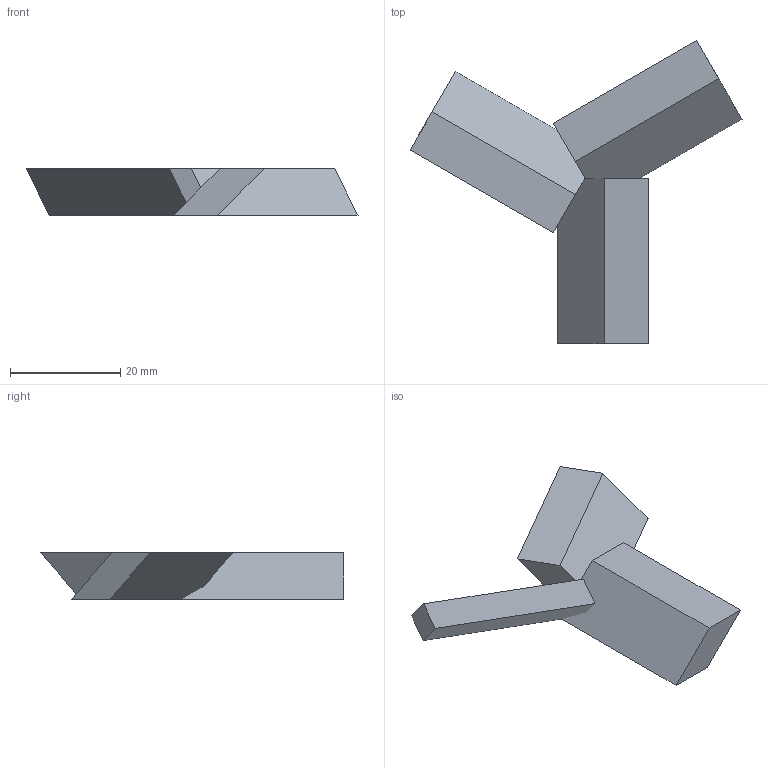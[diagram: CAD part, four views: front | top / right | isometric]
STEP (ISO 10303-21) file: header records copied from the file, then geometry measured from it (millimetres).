
FILE_DESCRIPTION(('FreeCAD Model'),'2;1');
FILE_NAME('/home/alexandre/Bureau/Cours-FreeCAD/Exercices/Exo-8.step', '2016-05-29T16:23:07',('Almisuifre'),(''), 'Open CASCADE STEP processor 6.8','FreeCAD','Unknown');
FILE_SCHEMA(('AUTOMOTIVE_DESIGN_CC2 { 1 2 10303 214 -1 1 5 4 }'));
Length unit declared in the file: millimetre
Products named in the file (2): ASSEMBLY; Array
Assembly tree (1 placements, depth 2):
  ASSEMBLY
    Array
Bounding box: 60.2 x 54.95 x 8.49 mm (x, y, z)
Volume: 6109.4 mm3; surface area: 4007.3 mm2
Topology: 3 solids, 3 shells, 18 faces, 36 edges, 24 vertices
Faces by surface type: plane 18
Entity records: 981 total; most frequent: CARTESIAN_POINT 152, DIRECTION 148, LINE 108, VECTOR 108, ORIENTED_EDGE 72, PCURVE 72, DEFINITIONAL_REPRESENTATION 72, EDGE_CURVE 36
